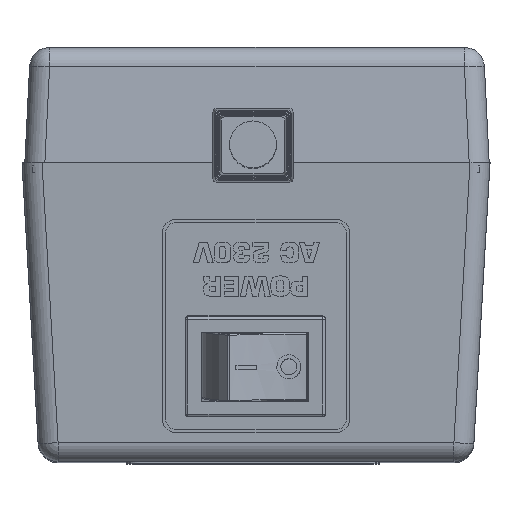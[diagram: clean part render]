
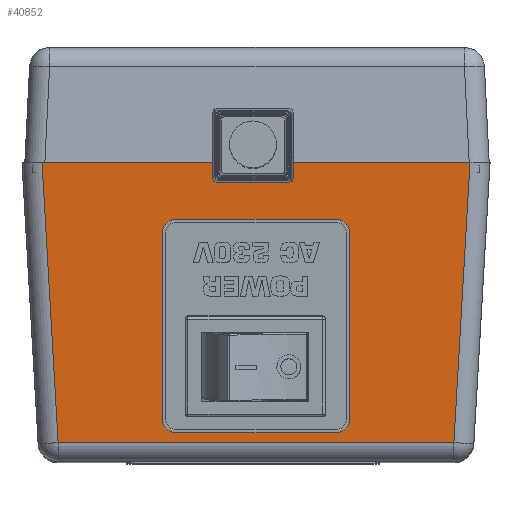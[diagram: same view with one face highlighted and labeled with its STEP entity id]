
A CAD part, top view. The second image highlights one B-rep face of the part: STEP entity #40852.
In plain terms, the highlighted planar face has unit normal (0, -0.056, 0.999).
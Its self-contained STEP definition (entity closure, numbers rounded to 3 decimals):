
#1594=FACE_BOUND('',#6702,.T.);
#2625=PLANE('',#42891);
#4480=FACE_OUTER_BOUND('',#6701,.T.);
#6701=EDGE_LOOP('',(#33473,#33474,#33475,#33476,#33477,#33478,#33479,#33480,
#33481,#33482));
#6702=EDGE_LOOP('',(#33483,#33484,#33485,#33486,#33487,#33488,#33489,#33490));
#10062=LINE('',#66833,#14369);
#10063=LINE('',#66835,#14370);
#10075=LINE('',#66867,#14382);
#10076=LINE('',#66869,#14383);
#10086=LINE('',#66892,#14393);
#10089=LINE('',#66898,#14396);
#10112=LINE('',#66946,#14419);
#10413=LINE('',#67697,#14720);
#10414=LINE('',#67699,#14721);
#10415=LINE('',#67700,#14722);
#10416=LINE('',#67705,#14723);
#10417=LINE('',#67709,#14724);
#10418=LINE('',#67713,#14725);
#10419=LINE('',#67716,#14726);
#14369=VECTOR('',#48534,10.);
#14370=VECTOR('',#48535,10.);
#14382=VECTOR('',#48557,10.);
#14383=VECTOR('',#48558,10.);
#14393=VECTOR('',#48578,10.);
#14396=VECTOR('',#48583,10.);
#14419=VECTOR('',#48620,10.);
#14720=VECTOR('',#49307,10.);
#14721=VECTOR('',#49308,10.);
#14722=VECTOR('',#49309,10.);
#14723=VECTOR('',#49312,10.);
#14724=VECTOR('',#49315,10.);
#14725=VECTOR('',#49318,10.);
#14726=VECTOR('',#49321,10.);
#16252=CIRCLE('',#42892,2.);
#16253=CIRCLE('',#42893,2.);
#16254=CIRCLE('',#42894,2.);
#16255=CIRCLE('',#42895,2.);
#18758=VERTEX_POINT('',#66830);
#18759=VERTEX_POINT('',#66832);
#18760=VERTEX_POINT('',#66834);
#18774=VERTEX_POINT('',#66864);
#18775=VERTEX_POINT('',#66866);
#18776=VERTEX_POINT('',#66868);
#18784=VERTEX_POINT('',#66891);
#18786=VERTEX_POINT('',#66897);
#19061=VERTEX_POINT('',#67696);
#19062=VERTEX_POINT('',#67698);
#19063=VERTEX_POINT('',#67701);
#19064=VERTEX_POINT('',#67702);
#19065=VERTEX_POINT('',#67704);
#19066=VERTEX_POINT('',#67706);
#19067=VERTEX_POINT('',#67708);
#19068=VERTEX_POINT('',#67710);
#19069=VERTEX_POINT('',#67712);
#19070=VERTEX_POINT('',#67714);
#23655=EDGE_CURVE('',#18759,#18758,#10062,.T.);
#23656=EDGE_CURVE('',#18760,#18759,#10063,.T.);
#23672=EDGE_CURVE('',#18775,#18774,#10075,.T.);
#23673=EDGE_CURVE('',#18776,#18775,#10076,.T.);
#23685=EDGE_CURVE('',#18774,#18784,#10086,.T.);
#23688=EDGE_CURVE('',#18784,#18786,#10089,.T.);
#23713=EDGE_CURVE('',#18786,#18760,#10112,.T.);
#24094=EDGE_CURVE('',#19061,#18758,#10413,.T.);
#24095=EDGE_CURVE('',#19062,#19061,#10414,.T.);
#24096=EDGE_CURVE('',#18776,#19062,#10415,.T.);
#24097=EDGE_CURVE('',#19063,#19064,#16252,.T.);
#24098=EDGE_CURVE('',#19064,#19065,#10416,.T.);
#24099=EDGE_CURVE('',#19065,#19066,#16253,.T.);
#24100=EDGE_CURVE('',#19066,#19067,#10417,.T.);
#24101=EDGE_CURVE('',#19067,#19068,#16254,.T.);
#24102=EDGE_CURVE('',#19068,#19069,#10418,.T.);
#24103=EDGE_CURVE('',#19069,#19070,#16255,.T.);
#24104=EDGE_CURVE('',#19070,#19063,#10419,.T.);
#33473=ORIENTED_EDGE('',*,*,#23685,.T.);
#33474=ORIENTED_EDGE('',*,*,#23688,.T.);
#33475=ORIENTED_EDGE('',*,*,#23713,.T.);
#33476=ORIENTED_EDGE('',*,*,#23656,.T.);
#33477=ORIENTED_EDGE('',*,*,#23655,.T.);
#33478=ORIENTED_EDGE('',*,*,#24094,.F.);
#33479=ORIENTED_EDGE('',*,*,#24095,.F.);
#33480=ORIENTED_EDGE('',*,*,#24096,.F.);
#33481=ORIENTED_EDGE('',*,*,#23673,.T.);
#33482=ORIENTED_EDGE('',*,*,#23672,.T.);
#33483=ORIENTED_EDGE('',*,*,#24097,.T.);
#33484=ORIENTED_EDGE('',*,*,#24098,.T.);
#33485=ORIENTED_EDGE('',*,*,#24099,.T.);
#33486=ORIENTED_EDGE('',*,*,#24100,.T.);
#33487=ORIENTED_EDGE('',*,*,#24101,.T.);
#33488=ORIENTED_EDGE('',*,*,#24102,.T.);
#33489=ORIENTED_EDGE('',*,*,#24103,.T.);
#33490=ORIENTED_EDGE('',*,*,#24104,.T.);
#40852=ADVANCED_FACE('',(#4480,#1594),#2625,.T.);
#42891=AXIS2_PLACEMENT_3D('',#67695,#49305,#49306);
#42892=AXIS2_PLACEMENT_3D('',#67703,#49310,#49311);
#42893=AXIS2_PLACEMENT_3D('',#67707,#49313,#49314);
#42894=AXIS2_PLACEMENT_3D('',#67711,#49316,#49317);
#42895=AXIS2_PLACEMENT_3D('',#67715,#49319,#49320);
#48534=DIRECTION('',(-1.,0.,0.));
#48535=DIRECTION('',(-1.,0.,0.));
#48557=DIRECTION('',(-1.,0.,0.));
#48558=DIRECTION('',(-1.,0.,0.));
#48578=DIRECTION('',(0.,-0.998,-0.056));
#48583=DIRECTION('',(-1.,0.,0.));
#48620=DIRECTION('',(0.,0.998,0.056));
#49305=DIRECTION('center_axis',(0.,-0.056,
0.998));
#49306=DIRECTION('ref_axis',(0.,0.998,0.056));
#49307=DIRECTION('',(-0.057,0.997,0.056));
#49308=DIRECTION('',(-1.,0.,0.));
#49309=DIRECTION('',(-0.057,-0.997,-0.056));
#49310=DIRECTION('center_axis',(0.,0.056,
-0.998));
#49311=DIRECTION('ref_axis',(0.,-0.998,-0.056));
#49312=DIRECTION('',(1.,0.,0.));
#49313=DIRECTION('center_axis',(0.,0.056,
-0.998));
#49314=DIRECTION('ref_axis',(-1.,0.,0.));
#49315=DIRECTION('',(0.,-0.998,-0.056));
#49316=DIRECTION('center_axis',(0.,0.056,
-0.998));
#49317=DIRECTION('ref_axis',(0.,0.998,0.056));
#49318=DIRECTION('',(-1.,0.,0.));
#49319=DIRECTION('center_axis',(0.,0.056,
-0.998));
#49320=DIRECTION('ref_axis',(1.,0.,0.));
#49321=DIRECTION('',(0.,0.998,0.056));
#66830=CARTESIAN_POINT('',(61.102,50.809,-14.408));
#66832=CARTESIAN_POINT('',(86.681,50.809,-14.408));
#66833=CARTESIAN_POINT('',(122.756,50.809,-14.408));
#66834=CARTESIAN_POINT('',(88.181,50.809,-14.408));
#66835=CARTESIAN_POINT('',(122.756,50.809,-14.408));
#66864=CARTESIAN_POINT('',(97.181,50.809,-14.408));
#66866=CARTESIAN_POINT('',(98.681,50.809,-14.408));
#66867=CARTESIAN_POINT('',(122.756,50.809,-14.408));
#66868=CARTESIAN_POINT('',(125.161,50.809,-14.408));
#66869=CARTESIAN_POINT('',(122.756,50.809,-14.408));
#66891=CARTESIAN_POINT('',(97.181,49.384,-14.488));
#66892=CARTESIAN_POINT('',(97.181,27.641,-15.698));
#66897=CARTESIAN_POINT('',(88.181,49.384,-14.488));
#66898=CARTESIAN_POINT('',(105.469,49.384,-14.488));
#66946=CARTESIAN_POINT('',(88.181,31.628,-15.476));
#67695=CARTESIAN_POINT('Origin',(122.756,6.059,-16.9));
#67696=CARTESIAN_POINT('',(63.511,8.892,-16.743));
#67697=CARTESIAN_POINT('',(62.662,23.66,-15.92));
#67698=CARTESIAN_POINT('',(122.752,8.892,-16.743));
#67699=CARTESIAN_POINT('',(122.756,8.892,-16.743));
#67700=CARTESIAN_POINT('',(122.501,4.542,-16.985));
#67701=CARTESIAN_POINT('',(79.131,40.344,-14.991));
#67702=CARTESIAN_POINT('',(81.131,42.341,-14.88));
#67703=CARTESIAN_POINT('Origin',(81.131,40.344,-14.991));
#67704=CARTESIAN_POINT('',(105.131,42.341,-14.88));
#67705=CARTESIAN_POINT('',(101.944,42.341,-14.88));
#67706=CARTESIAN_POINT('',(107.131,40.344,-14.991));
#67707=CARTESIAN_POINT('Origin',(105.131,40.344,-14.991));
#67708=CARTESIAN_POINT('',(107.131,12.387,-16.548));
#67709=CARTESIAN_POINT('',(107.131,23.201,-15.946));
#67710=CARTESIAN_POINT('',(105.131,10.39,-16.659));
#67711=CARTESIAN_POINT('Origin',(105.131,12.387,-16.548));
#67712=CARTESIAN_POINT('',(81.131,10.39,-16.659));
#67713=CARTESIAN_POINT('',(113.944,10.39,-16.659));
#67714=CARTESIAN_POINT('',(79.131,12.387,-16.548));
#67715=CARTESIAN_POINT('Origin',(81.131,12.387,-16.548));
#67716=CARTESIAN_POINT('',(79.131,9.223,-16.724));
